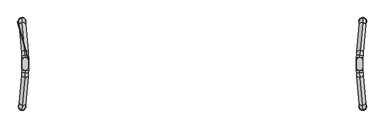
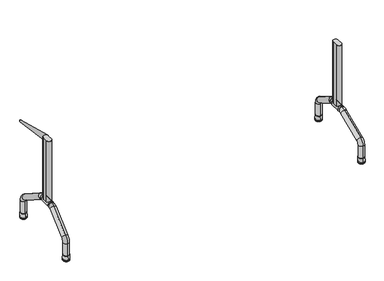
"""IFC4 building model written with IfcOpenShell, lengths in millimetres: furniture geometry, Mesa para refeitório : Mesa para refeitório 220x60cm cód 70472.6."""

from ifc_helpers import new_model, si_unit, point, frame, frame_2d, origin, place, context, project, spatial, polyline, circle_curve, ellipse_curve, trimmed, segment, composite_curve, outline, extrude, source, transform, mapped, element, save
from ifc_brep_helpers import plane_surface, cylinder_surface, revolved_surface, extruded_surface, advanced_brep


def furniture_3dd5c9f9(model_context):
    return source(origin(), model_context, "Body", "SolidModel", [
        advanced_brep(
        [(-1019.4401581, 37.5, 255.0), (-1019.4401581, -37.5, 255.0), (-1019.4401581, -37.5, 295.0), (-1019.4401581, 37.5, 295.0), (-1020.0583573, -51.7441422, 295.0), (-1020.0583573, -51.7441422, 255.0), (-1020.0583573, 51.7441422, 295.0), (-1020.0583573, 51.7441422, 255.0)],
        [
            (0, 1),
            (1, 2, ellipse_curve(frame((-1019.4401581, -37.5, 275.0), z_axis=(0.0, 1.0, 0.0), x_axis=(0.0, 0.0, -1.0)), 20.0, 19.923894)),
            (2, 3),
            (3, 0, ellipse_curve(frame((-1019.4401581, 37.5, 275.0), z_axis=(0.0, -1.0, 0.0), x_axis=(0.0, 0.0, -1.0)), 20.0, 19.923894)),
            (2, 1, ellipse_curve(frame((-1019.4401581, -37.5, 275.0), z_axis=(0.0, 1.0, 0.0), x_axis=(0.0, 0.0, -1.0)), 20.0, 19.923894)),
            (0, 3, ellipse_curve(frame((-1019.4401581, 37.5, 275.0), z_axis=(0.0, -1.0, 0.0), x_axis=(0.0, 0.0, -1.0)), 20.0, 19.923894)),
            (4, 5, ellipse_curve(frame((-1020.0583573, -51.7441422, 275.0), z_axis=(-0.08663729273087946, -0.9962399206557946, 0.0), x_axis=(0.0, 0.0, -1.0)), 20.0, 19.923894)),
            (5, 4, ellipse_curve(frame((-1020.0583573, -51.7441422, 275.0), z_axis=(-0.08663729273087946, -0.9962399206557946, 0.0), x_axis=(0.0, 0.0, -1.0)), 20.0, 19.923894)),
            (4, 2, circle_curve(frame((-1183.8513695, -37.5, 295.0), z_axis=(0.0, 0.0, 1.0), x_axis=(1.0, 0.0, 0.0)), 164.4112114)),
            (1, 5, circle_curve(frame((-1183.8513695, -37.5, 255.0), z_axis=(0.0, 0.0, -1.0), x_axis=(1.0, 0.0, 0.0)), 164.4112114)),
            (6, 7, ellipse_curve(frame((-1020.0583573, 51.7441422, 275.0), z_axis=(-0.08663729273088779, 0.9962399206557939, 0.0), x_axis=(0.0, 0.0, -1.0)), 20.0, 19.923894)),
            (7, 6, ellipse_curve(frame((-1020.0583573, 51.7441422, 275.0), z_axis=(-0.08663729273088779, 0.9962399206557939, 0.0), x_axis=(0.0, 0.0, -1.0)), 20.0, 19.923894)),
            (3, 6, circle_curve(frame((-1183.8513695, 37.5, 295.0), z_axis=(0.0, 0.0, 1.0), x_axis=(0.996239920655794, 0.08663729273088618, 0.0)), 164.4112114)),
            (7, 0, circle_curve(frame((-1183.8513695, 37.5, 255.0), z_axis=(0.0, 0.0, -1.0), x_axis=(0.996239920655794, 0.08663729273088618, 0.0)), 164.4112114)),
        ],
        [
            extruded_surface(trimmed(ellipse_curve(frame((-1019.4401581, 37.5, 275.0), z_axis=(0.0, -1.0, 0.0), x_axis=(0.0, 0.0, -1.0)), 20.0, 19.923894), [point((-1019.4401581, 37.5, 295.0))], [point((-1019.4401581, 37.5, 255.0))], True, "CARTESIAN"), (0.0, -75.0, 0.0), 75.0),
            extruded_surface(trimmed(ellipse_curve(frame((-1019.4401581, 37.5, 275.0), z_axis=(0.0, -1.0, 0.0), x_axis=(0.0, 0.0, -1.0)), 20.0, 19.923894), [point((-1019.4401581, 37.5, 255.0))], [point((-1019.4401581, 37.5, 295.0))], True, "CARTESIAN"), (0.0, -75.0, 0.0), 75.0),
            plane_surface(frame((-1020.0583573, -51.7441422, 0.0), z_axis=(-0.08663729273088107, -0.9962399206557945, 0.0), x_axis=(0.0, 0.0, 1.0))),
            revolved_surface(trimmed(ellipse_curve(frame((-1019.4401581, -37.5, 275.0), z_axis=(0.0, -1.0, 0.0), x_axis=(0.0, 0.0, -1.0)), 20.0, 19.923894), [point((-1019.4401581, -37.5, 295.0))], [point((-1019.4401581, -37.5, 255.0))], True, "CARTESIAN"), (-1183.8513695, -37.5, 0.0), (0.0, 0.0, 1.0)),
            revolved_surface(trimmed(ellipse_curve(frame((-1019.4401581, -37.5, 275.0), z_axis=(0.0, -1.0, 0.0), x_axis=(0.0, 0.0, -1.0)), 20.0, 19.923894), [point((-1019.4401581, -37.5, 255.0))], [point((-1019.4401581, -37.5, 295.0))], True, "CARTESIAN"), (-1183.8513695, -37.5, 0.0), (0.0, 0.0, 1.0)),
            plane_surface(frame((-1020.0583573, 51.7441422, 0.0), z_axis=(-0.08663729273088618, 0.996239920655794, 0.0), x_axis=(0.0, 0.0, 1.0))),
            revolved_surface(trimmed(ellipse_curve(frame((-1020.0583573, 51.7441422, 275.0), z_axis=(0.08663729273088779, -0.9962399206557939, 0.0), x_axis=(0.0, 0.0, -1.0)), 20.0, 19.923894), [point((-1020.0583573, 51.7441422, 295.0))], [point((-1020.0583573, 51.7441422, 255.0))], True, "CARTESIAN"), (-1183.8513695, 37.5, 0.0), (0.0, 0.0, 1.0)),
            revolved_surface(trimmed(ellipse_curve(frame((-1020.0583573, 51.7441422, 275.0), z_axis=(0.08663729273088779, -0.9962399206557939, 0.0), x_axis=(0.0, 0.0, -1.0)), 20.0, 19.923894), [point((-1020.0583573, 51.7441422, 255.0))], [point((-1020.0583573, 51.7441422, 295.0))], True, "CARTESIAN"), (-1183.8513695, 37.5, 0.0), (0.0, 0.0, 1.0)),
        ],
        [
            (0, [[1, 2, 3, 4]]),
            (1, [[-3, 5, -1, 6]]),
            (2, [[7, 8]]),
            (3, [[-7, 9, -2, 10]]),
            (4, [[-8, -10, -5, -9]]),
            (5, [[11, 12]]),
            (6, [[-4, 13, -12, 14]]),
            (7, [[-6, -14, -11, -13]]),
        ],
    ),
        advanced_brep(
        [(-1039.9590188, 279.1314153, 43.1183008), (-1036.4727891, 239.2836274, 43.1183008), (-1039.9590188, 279.1314153, 130.5759348), (-1036.4727891, 239.2836274, 130.5759348), (-1037.4872272, 250.8787073, 181.5558347), (-1022.822711, 83.2625212, 285.9798998), (-1020.9843424, 62.2498719, 251.9932999), (-1035.6488585, 229.866058, 147.5692348), (-1020.0651581, 51.7435473, 295.0), (-1020.0651581, 51.7435473, 255.0)],
        [
            (0, 1, circle_curve(frame((-1038.215904, 259.2075213, 43.1183008), z_axis=(0.0, 0.0, -1.0), x_axis=(0.08715574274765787, -0.9961946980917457, 0.0)), 20.0)),
            (1, 0, circle_curve(frame((-1038.215904, 259.2075213, 43.1183008), z_axis=(0.0, 0.0, -1.0), x_axis=(0.08715574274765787, -0.9961946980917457, 0.0)), 20.0)),
            (0, 2),
            (2, 3, circle_curve(frame((-1038.215904, 259.2075213, 130.5759348), z_axis=(0.0, 0.0, -1.0), x_axis=(0.08715574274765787, -0.9961946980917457, 0.0)), 20.0)),
            (3, 1),
            (3, 2, circle_curve(frame((-1038.215904, 259.2075213, 130.5759348), z_axis=(0.0, 0.0, -1.0), x_axis=(0.08715574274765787, -0.9961946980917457, 0.0)), 20.0)),
            (4, 5),
            (5, 6, circle_curve(frame((-1021.9035267, 72.7561965, 268.9865999), z_axis=(-0.07405318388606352, 0.8464317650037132, -0.5273228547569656), x_axis=(0.04595921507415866, -0.5253162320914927, -0.8496649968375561)), 20.0)),
            (6, 7),
            (7, 4, circle_curve(frame((-1036.5680429, 240.3723827, 164.5625347), z_axis=(0.07405318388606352, -0.8464317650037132, 0.5273228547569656), x_axis=(0.04595921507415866, -0.5253162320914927, -0.8496649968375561)), 20.0)),
            (6, 5, circle_curve(frame((-1021.9035267, 72.7561965, 268.9865999), z_axis=(-0.07405318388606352, 0.8464317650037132, -0.5273228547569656), x_axis=(0.04595921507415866, -0.5253162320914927, -0.8496649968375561)), 20.0)),
            (4, 7, circle_curve(frame((-1036.5680429, 240.3723827, 164.5625347), z_axis=(0.07405318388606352, -0.8464317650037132, 0.5273228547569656), x_axis=(0.04595921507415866, -0.5253162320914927, -0.8496649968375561)), 20.0)),
            (7, 3, circle_curve(frame((-1034.7296742, 219.3597334, 130.5759348), z_axis=(-0.9961946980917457, -0.08715574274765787, 0.0), x_axis=(-0.08715574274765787, 0.9961946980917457, 0.0)), 20.0)),
            (2, 4, circle_curve(frame((-1034.7296742, 219.3597334, 130.5759348), z_axis=(0.9961946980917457, 0.08715574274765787, 0.0), x_axis=(-0.08715574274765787, 0.9961946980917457, 0.0)), 60.0)),
            (8, 9, circle_curve(frame((-1020.0651581, 51.7435473, 275.0), z_axis=(0.08715574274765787, -0.9961946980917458, 0.0), x_axis=(0.0, 0.0, -1.0)), 20.0)),
            (9, 8, circle_curve(frame((-1020.0651581, 51.7435473, 275.0), z_axis=(0.08715574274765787, -0.9961946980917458, 0.0), x_axis=(0.0, 0.0, -1.0)), 20.0)),
            (9, 6, circle_curve(frame((-1020.0651581, 51.7435473, 235.0), z_axis=(-0.9961946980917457, -0.08715574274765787, 0.0), x_axis=(-0.045959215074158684, 0.5253162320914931, 0.8496649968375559)), 20.0)),
            (5, 8, circle_curve(frame((-1020.0651581, 51.7435473, 235.0), z_axis=(0.9961946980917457, 0.08715574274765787, 0.0), x_axis=(-0.045959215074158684, 0.5253162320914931, 0.8496649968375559)), 60.0)),
        ],
        [
            plane_surface(frame((-350.8415623, 319.3449838, 43.1183008), z_axis=(0.0, 0.0, -1.0000000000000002), x_axis=(-0.9961946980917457, -0.08715574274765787, 0.0))),
            cylinder_surface(frame((-1038.215904, 259.2075213, 43.1183008), z_axis=(0.0, 0.0, -1.0000000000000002), x_axis=(0.08715574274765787, -0.9961946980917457, 0.0)), 20.0),
            cylinder_surface(frame((-1036.5680429, 240.3723827, 164.5625347), z_axis=(-0.07405318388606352, 0.8464317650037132, -0.5273228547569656), x_axis=(0.04595921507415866, -0.5253162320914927, -0.8496649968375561)), 20.0),
            revolved_surface(trimmed(ellipse_curve(frame((-1038.215904, 259.2075213, 130.5759348), z_axis=(0.0, 0.0, 1.0000000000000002), x_axis=(0.08715574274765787, -0.9961946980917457, 0.0)), 20.0, 20.0), [point((-1036.4727891, 239.2836274, 130.5759348))], [point((-1039.9590188, 279.1314153, 130.5759348))], True, "CARTESIAN"), (-347.3553326, 279.4971959, 130.5759348), (-0.9961946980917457, -0.08715574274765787, 0.0)),
            revolved_surface(trimmed(ellipse_curve(frame((-1038.215904, 259.2075213, 130.5759348), z_axis=(0.0, 0.0, 1.0000000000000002), x_axis=(0.08715574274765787, -0.9961946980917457, 0.0)), 20.0, 20.0), [point((-1039.9590188, 279.1314153, 130.5759348))], [point((-1036.4727891, 239.2836274, 130.5759348))], True, "CARTESIAN"), (-347.3553326, 279.4971959, 130.5759348), (-0.9961946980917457, -0.08715574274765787, 0.0)),
            plane_surface(frame((-332.6908165, 111.8810098, 275.0), z_axis=(0.08715574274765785, -0.9961946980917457, 0.0), x_axis=(-0.9961946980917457, -0.08715574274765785, 0.0))),
            revolved_surface(trimmed(ellipse_curve(frame((-1021.9035267, 72.7561965, 268.9865999), z_axis=(0.07405318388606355, -0.8464317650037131, 0.527322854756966), x_axis=(0.04595921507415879, -0.5253162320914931, -0.8496649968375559)), 20.0, 20.0), [point((-1020.9843424, 62.2498719, 251.9932999))], [point((-1022.822711, 83.2625212, 285.9798998))], True, "CARTESIAN"), (-332.6908165, 111.8810098, 235.0), (-0.9961946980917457, -0.08715574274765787, 0.0)),
            revolved_surface(trimmed(ellipse_curve(frame((-1021.9035267, 72.7561965, 268.9865999), z_axis=(0.07405318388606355, -0.8464317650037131, 0.527322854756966), x_axis=(0.04595921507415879, -0.5253162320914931, -0.8496649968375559)), 20.0, 20.0), [point((-1022.822711, 83.2625212, 285.9798998))], [point((-1020.9843424, 62.2498719, 251.9932999))], True, "CARTESIAN"), (-332.6908165, 111.8810098, 235.0), (-0.9961946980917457, -0.08715574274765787, 0.0)),
        ],
        [
            (0, [[1, 2]]),
            (1, [[3, 4, 5, -1]]),
            (1, [[-5, 6, -3, -2]]),
            (2, [[7, 8, 9, 10]]),
            (2, [[-9, 11, -7, 12]]),
            (3, [[-10, 13, -4, 14]]),
            (4, [[-12, -14, -6, -13]]),
            (5, [[15, 16]]),
            (6, [[-16, 17, -8, 18]]),
            (7, [[-15, -18, -11, -17]]),
        ],
    ),
        advanced_brep(
        [(-1036.4727891, -239.2836274, 43.1183008), (-1039.9590188, -279.1314153, 43.1183008), (-1039.9590188, -279.1314153, 130.5759348), (-1036.4727891, -239.2836274, 130.5759348), (-1037.4872272, -250.8787073, 181.5558347), (-1022.822711, -83.2625212, 285.9798998), (-1020.9843424, -62.2498719, 251.9932999), (-1035.6488585, -229.866058, 147.5692348), (-1020.0651581, -51.7435473, 255.0), (-1020.0651581, -51.7435473, 295.0)],
        [
            (0, 1, circle_curve(frame((-1038.215904, -259.2075213, 43.1183008), z_axis=(0.0, 0.0, -1.0), x_axis=(-0.08715574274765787, -0.9961946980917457, 0.0)), 20.0)),
            (1, 0, circle_curve(frame((-1038.215904, -259.2075213, 43.1183008), z_axis=(0.0, 0.0, -1.0), x_axis=(-0.08715574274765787, -0.9961946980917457, 0.0)), 20.0)),
            (1, 2),
            (2, 3, circle_curve(frame((-1038.215904, -259.2075213, 130.5759348), z_axis=(0.0, 0.0, -1.0), x_axis=(-0.08715574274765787, -0.9961946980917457, 0.0)), 20.0)),
            (3, 0),
            (3, 2, circle_curve(frame((-1038.215904, -259.2075213, 130.5759348), z_axis=(0.0, 0.0, -1.0), x_axis=(-0.08715574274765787, -0.9961946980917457, 0.0)), 20.0)),
            (4, 5),
            (5, 6, circle_curve(frame((-1021.9035267, -72.7561965, 268.9865999), z_axis=(-0.07405318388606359, -0.8464317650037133, -0.5273228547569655), x_axis=(-0.04595921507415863, -0.5253162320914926, 0.8496649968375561)), 20.0)),
            (6, 7),
            (7, 4, circle_curve(frame((-1036.5680429, -240.3723827, 164.5625347), z_axis=(0.07405318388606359, 0.8464317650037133, 0.5273228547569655), x_axis=(-0.04595921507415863, -0.5253162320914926, 0.8496649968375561)), 20.0)),
            (6, 5, circle_curve(frame((-1021.9035267, -72.7561965, 268.9865999), z_axis=(-0.07405318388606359, -0.8464317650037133, -0.5273228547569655), x_axis=(-0.04595921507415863, -0.5253162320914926, 0.8496649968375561)), 20.0)),
            (4, 7, circle_curve(frame((-1036.5680429, -240.3723827, 164.5625347), z_axis=(0.07405318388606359, 0.8464317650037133, 0.5273228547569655), x_axis=(-0.04595921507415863, -0.5253162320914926, 0.8496649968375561)), 20.0)),
            (7, 3, circle_curve(frame((-1034.7296742, -219.3597334, 130.5759348), z_axis=(0.9961946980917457, -0.08715574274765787, 0.0), x_axis=(-0.08715574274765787, -0.9961946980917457, 0.0)), 20.0)),
            (2, 4, circle_curve(frame((-1034.7296742, -219.3597334, 130.5759348), z_axis=(-0.9961946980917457, 0.08715574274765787, 0.0), x_axis=(-0.08715574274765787, -0.9961946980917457, 0.0)), 60.0)),
            (8, 9, circle_curve(frame((-1020.0651581, -51.7435473, 275.0), z_axis=(0.08715574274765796, 0.9961946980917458, 0.0), x_axis=(0.0, 0.0, 1.0)), 20.0)),
            (9, 8, circle_curve(frame((-1020.0651581, -51.7435473, 275.0), z_axis=(0.08715574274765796, 0.9961946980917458, 0.0), x_axis=(0.0, 0.0, 1.0)), 20.0)),
            (8, 6, circle_curve(frame((-1020.0651581, -51.7435473, 235.0), z_axis=(0.9961946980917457, -0.08715574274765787, 0.0), x_axis=(-0.045959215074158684, -0.5253162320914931, 0.8496649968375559)), 20.0)),
            (5, 9, circle_curve(frame((-1020.0651581, -51.7435473, 235.0), z_axis=(-0.9961946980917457, 0.08715574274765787, 0.0), x_axis=(-0.045959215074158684, -0.5253162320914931, 0.8496649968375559)), 60.0)),
        ],
        [
            plane_surface(frame((-350.8415623, -319.3449838, 43.1183008), z_axis=(0.0, 0.0, -1.0000000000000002), x_axis=(-0.9961946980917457, 0.08715574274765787, 0.0))),
            cylinder_surface(frame((-1038.215904, -259.2075213, 43.1183008), z_axis=(0.0, 0.0, -1.0000000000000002), x_axis=(-0.08715574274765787, -0.9961946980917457, 0.0)), 20.0),
            cylinder_surface(frame((-1036.5680429, -240.3723827, 164.5625347), z_axis=(-0.07405318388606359, -0.8464317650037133, -0.5273228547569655), x_axis=(-0.04595921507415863, -0.5253162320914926, 0.8496649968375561)), 20.0),
            revolved_surface(trimmed(ellipse_curve(frame((-1038.215904, -259.2075213, 130.5759348), z_axis=(0.0, 0.0, 1.0000000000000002), x_axis=(-0.08715574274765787, -0.9961946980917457, 0.0)), 20.0, 20.0), [point((-1036.4727891, -239.2836274, 130.5759348))], [point((-1039.9590188, -279.1314153, 130.5759348))], True, "CARTESIAN"), (-347.3553326, -279.4971959, 130.5759348), (0.9961946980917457, -0.08715574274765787, 0.0)),
            revolved_surface(trimmed(ellipse_curve(frame((-1038.215904, -259.2075213, 130.5759348), z_axis=(0.0, 0.0, 1.0000000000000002), x_axis=(-0.08715574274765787, -0.9961946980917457, 0.0)), 20.0, 20.0), [point((-1039.9590188, -279.1314153, 130.5759348))], [point((-1036.4727891, -239.2836274, 130.5759348))], True, "CARTESIAN"), (-347.3553326, -279.4971959, 130.5759348), (0.9961946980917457, -0.08715574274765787, 0.0)),
            plane_surface(frame((-332.6908165, -111.8810098, 275.0), z_axis=(0.0871557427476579, 0.9961946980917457, 0.0), x_axis=(-0.9961946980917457, 0.0871557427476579, 0.0))),
            revolved_surface(trimmed(ellipse_curve(frame((-1021.9035267, -72.7561965, 268.9865999), z_axis=(0.07405318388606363, 0.8464317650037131, 0.527322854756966), x_axis=(-0.04595921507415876, -0.5253162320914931, 0.8496649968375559)), 20.0, 20.0), [point((-1020.9843424, -62.2498719, 251.9932999))], [point((-1022.822711, -83.2625212, 285.9798998))], True, "CARTESIAN"), (-332.6908165, -111.8810098, 235.0), (0.9961946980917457, -0.08715574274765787, 0.0)),
            revolved_surface(trimmed(ellipse_curve(frame((-1021.9035267, -72.7561965, 268.9865999), z_axis=(0.07405318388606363, 0.8464317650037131, 0.527322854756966), x_axis=(-0.04595921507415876, -0.5253162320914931, 0.8496649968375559)), 20.0, 20.0), [point((-1022.822711, -83.2625212, 285.9798998))], [point((-1020.9843424, -62.2498719, 251.9932999))], True, "CARTESIAN"), (-332.6908165, -111.8810098, 235.0), (0.9961946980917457, -0.08715574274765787, 0.0)),
        ],
        [
            (0, [[1, 2]]),
            (1, [[3, 4, 5, -2]]),
            (1, [[-5, 6, -3, -1]]),
            (2, [[7, 8, 9, 10]]),
            (2, [[-9, 11, -7, 12]]),
            (3, [[-10, 13, -4, 14]]),
            (4, [[-12, -14, -6, -13]]),
            (5, [[15, 16]]),
            (6, [[-15, 17, -8, 18]]),
            (7, [[-16, -18, -11, -17]]),
        ],
    ),
        extrude(outline(composite_curve([segment(polyline([(-1037.5814475, -19.3376613), (-1037.5814475, 19.4032698)]), True, "CONTINUOUS"), segment(trimmed(circle_curve(frame_2d((-1019.5814475, 19.4032698)), 18.0), [point((-1037.5814475, 19.4032698))], [point((-1001.5814475, 19.4032698))], False, "CARTESIAN"), True, "CONTINUOUS"), segment(polyline([(-1001.5814475, 19.4032698), (-1001.5814475, -19.3376613)]), True, "CONTINUOUS"), segment(trimmed(circle_curve(frame_2d((-1019.5814475, -19.3376613)), 18.0), [point((-1001.5814475, -19.3376613))], [point((-1037.5814475, -19.3376613))], False, "CARTESIAN"), True, "CONTINUOUS")], self_intersect=False)), frame((0.0, 0.0, 275.0), z_axis=(0.0, 0.0, 1.0), x_axis=(1.0, 0.0, 0.0)), (0.0, 0.0, 1.0), 467.0),
        advanced_brep(
        [(1019.4401581, 37.5, 255.0), (1019.4401581, 37.5, 295.0), (1019.4401581, -37.5, 295.0), (1019.4401581, -37.5, 255.0), (1020.0583573, -51.7441422, 295.0), (1020.0583573, -51.7441422, 255.0), (1020.0583573, 51.7441422, 295.0), (1020.0583573, 51.7441422, 255.0)],
        [
            (0, 1, ellipse_curve(frame((1019.4401581, 37.5, 275.0), z_axis=(0.0, -1.0, 0.0), x_axis=(0.0, 0.0, -1.0)), 20.0, 19.923894)),
            (1, 2),
            (2, 3, ellipse_curve(frame((1019.4401581, -37.5, 275.0), z_axis=(0.0, 1.0, 0.0), x_axis=(0.0, 0.0, -1.0)), 20.0, 19.923894)),
            (3, 0),
            (1, 0, ellipse_curve(frame((1019.4401581, 37.5, 275.0), z_axis=(0.0, -1.0, 0.0), x_axis=(0.0, 0.0, -1.0)), 20.0, 19.923894)),
            (3, 2, ellipse_curve(frame((1019.4401581, -37.5, 275.0), z_axis=(0.0, 1.0, 0.0), x_axis=(0.0, 0.0, -1.0)), 20.0, 19.923894)),
            (4, 5, ellipse_curve(frame((1020.0583573, -51.7441422, 275.0), z_axis=(0.08663729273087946, -0.9962399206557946, 0.0), x_axis=(0.0, 0.0, -1.0)), 20.0, 19.923894)),
            (5, 4, ellipse_curve(frame((1020.0583573, -51.7441422, 275.0), z_axis=(0.08663729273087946, -0.9962399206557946, 0.0), x_axis=(0.0, 0.0, -1.0)), 20.0, 19.923894)),
            (5, 3, circle_curve(frame((1183.8513695, -37.5, 255.0), z_axis=(0.0, 0.0, -1.0), x_axis=(-1.0, 0.0, 0.0)), 164.4112114)),
            (2, 4, circle_curve(frame((1183.8513695, -37.5, 295.0), z_axis=(0.0, 0.0, 1.0), x_axis=(-1.0, 0.0, 0.0)), 164.4112114)),
            (6, 7, ellipse_curve(frame((1020.0583573, 51.7441422, 275.0), z_axis=(0.08663729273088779, 0.9962399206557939, 0.0), x_axis=(0.0, 0.0, -1.0)), 20.0, 19.923894)),
            (7, 6, ellipse_curve(frame((1020.0583573, 51.7441422, 275.0), z_axis=(0.08663729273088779, 0.9962399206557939, 0.0), x_axis=(0.0, 0.0, -1.0)), 20.0, 19.923894)),
            (0, 7, circle_curve(frame((1183.8513695, 37.5, 255.0), z_axis=(0.0, 0.0, -1.0), x_axis=(-0.996239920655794, 0.08663729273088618, 0.0)), 164.4112114)),
            (6, 1, circle_curve(frame((1183.8513695, 37.5, 295.0), z_axis=(0.0, 0.0, 1.0), x_axis=(-0.996239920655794, 0.08663729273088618, 0.0)), 164.4112114)),
        ],
        [
            extruded_surface(trimmed(ellipse_curve(frame((1019.4401581, -37.5, 275.0), z_axis=(0.0, 1.0, 0.0), x_axis=(0.0, 0.0, -1.0)), 20.0, 19.923894), [point((1019.4401581, -37.5, 295.0))], [point((1019.4401581, -37.5, 255.0))], True, "CARTESIAN"), (0.0, 75.0, 0.0), 75.0),
            extruded_surface(trimmed(ellipse_curve(frame((1019.4401581, -37.5, 275.0), z_axis=(0.0, 1.0, 0.0), x_axis=(0.0, 0.0, -1.0)), 20.0, 19.923894), [point((1019.4401581, -37.5, 255.0))], [point((1019.4401581, -37.5, 295.0))], True, "CARTESIAN"), (0.0, 75.0, 0.0), 75.0),
            plane_surface(frame((1020.0583573, -51.7441422, 0.0), z_axis=(0.08663729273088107, -0.9962399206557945, 0.0), x_axis=(0.0, 0.0, 1.0))),
            revolved_surface(trimmed(ellipse_curve(frame((1019.4401581, -37.5, 275.0), z_axis=(0.0, 1.0, 0.0), x_axis=(0.0, 0.0, -1.0)), 20.0, 19.923894), [point((1019.4401581, -37.5, 295.0))], [point((1019.4401581, -37.5, 255.0))], True, "CARTESIAN"), (1183.8513695, -37.5, 0.0), (0.0, 0.0, 1.0)),
            revolved_surface(trimmed(ellipse_curve(frame((1019.4401581, -37.5, 275.0), z_axis=(0.0, 1.0, 0.0), x_axis=(0.0, 0.0, -1.0)), 20.0, 19.923894), [point((1019.4401581, -37.5, 255.0))], [point((1019.4401581, -37.5, 295.0))], True, "CARTESIAN"), (1183.8513695, -37.5, 0.0), (0.0, 0.0, 1.0)),
            plane_surface(frame((1020.0583573, 51.7441422, 0.0), z_axis=(0.08663729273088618, 0.996239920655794, 0.0), x_axis=(0.0, 0.0, 1.0))),
            revolved_surface(trimmed(ellipse_curve(frame((1020.0583573, 51.7441422, 275.0), z_axis=(0.08663729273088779, 0.9962399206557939, 0.0), x_axis=(0.0, 0.0, -1.0)), 20.0, 19.923894), [point((1020.0583573, 51.7441422, 295.0))], [point((1020.0583573, 51.7441422, 255.0))], True, "CARTESIAN"), (1183.8513695, 37.5, 0.0), (0.0, 0.0, 1.0)),
            revolved_surface(trimmed(ellipse_curve(frame((1020.0583573, 51.7441422, 275.0), z_axis=(0.08663729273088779, 0.9962399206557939, 0.0), x_axis=(0.0, 0.0, -1.0)), 20.0, 19.923894), [point((1020.0583573, 51.7441422, 255.0))], [point((1020.0583573, 51.7441422, 295.0))], True, "CARTESIAN"), (1183.8513695, 37.5, 0.0), (0.0, 0.0, 1.0)),
        ],
        [
            (0, [[1, 2, 3, 4]]),
            (1, [[5, -4, 6, -2]]),
            (2, [[7, 8]]),
            (3, [[9, -3, 10, -8]]),
            (4, [[-10, -6, -9, -7]]),
            (5, [[11, 12]]),
            (6, [[13, -11, 14, -1]]),
            (7, [[-14, -12, -13, -5]]),
        ],
    ),
        advanced_brep(
        [(1039.9590188, 279.1314153, 43.1183008), (1036.4727891, 239.2836274, 43.1183008), (1036.4727891, 239.2836274, 130.5759348), (1039.9590188, 279.1314153, 130.5759348), (1037.4872272, 250.8787073, 181.5558347), (1035.6488585, 229.866058, 147.5692348), (1020.9843424, 62.2498719, 251.9932999), (1022.822711, 83.2625212, 285.9798998), (1020.0651581, 51.7435473, 295.0), (1020.0651581, 51.7435473, 255.0)],
        [
            (0, 1, circle_curve(frame((1038.215904, 259.2075213, 43.1183008), z_axis=(0.0, 0.0, -1.0), x_axis=(-0.08715574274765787, -0.9961946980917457, 0.0)), 20.0)),
            (1, 0, circle_curve(frame((1038.215904, 259.2075213, 43.1183008), z_axis=(0.0, 0.0, -1.0), x_axis=(-0.08715574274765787, -0.9961946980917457, 0.0)), 20.0)),
            (1, 2),
            (2, 3, circle_curve(frame((1038.215904, 259.2075213, 130.5759348), z_axis=(0.0, 0.0, -1.0), x_axis=(-0.08715574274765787, -0.9961946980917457, 0.0)), 20.0)),
            (3, 0),
            (3, 2, circle_curve(frame((1038.215904, 259.2075213, 130.5759348), z_axis=(0.0, 0.0, -1.0), x_axis=(-0.08715574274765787, -0.9961946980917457, 0.0)), 20.0)),
            (4, 5, circle_curve(frame((1036.5680429, 240.3723827, 164.5625347), z_axis=(-0.07405318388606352, -0.8464317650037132, 0.5273228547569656), x_axis=(-0.04595921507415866, -0.5253162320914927, -0.8496649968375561)), 20.0)),
            (5, 6),
            (6, 7, circle_curve(frame((1021.9035267, 72.7561965, 268.9865999), z_axis=(0.07405318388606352, 0.8464317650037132, -0.5273228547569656), x_axis=(-0.04595921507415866, -0.5253162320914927, -0.8496649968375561)), 20.0)),
            (7, 4),
            (5, 4, circle_curve(frame((1036.5680429, 240.3723827, 164.5625347), z_axis=(-0.07405318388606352, -0.8464317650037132, 0.5273228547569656), x_axis=(-0.04595921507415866, -0.5253162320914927, -0.8496649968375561)), 20.0)),
            (7, 6, circle_curve(frame((1021.9035267, 72.7561965, 268.9865999), z_axis=(0.07405318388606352, 0.8464317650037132, -0.5273228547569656), x_axis=(-0.04595921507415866, -0.5253162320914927, -0.8496649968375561)), 20.0)),
            (4, 3, circle_curve(frame((1034.7296742, 219.3597334, 130.5759348), z_axis=(-0.9961946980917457, 0.08715574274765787, 0.0), x_axis=(0.08715574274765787, 0.9961946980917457, 0.0)), 60.0)),
            (2, 5, circle_curve(frame((1034.7296742, 219.3597334, 130.5759348), z_axis=(0.9961946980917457, -0.08715574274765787, 0.0), x_axis=(0.08715574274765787, 0.9961946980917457, 0.0)), 20.0)),
            (8, 9, circle_curve(frame((1020.0651581, 51.7435473, 275.0), z_axis=(-0.08715574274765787, -0.9961946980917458, 0.0), x_axis=(0.0, 0.0, -1.0)), 20.0)),
            (9, 8, circle_curve(frame((1020.0651581, 51.7435473, 275.0), z_axis=(-0.08715574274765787, -0.9961946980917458, 0.0), x_axis=(0.0, 0.0, -1.0)), 20.0)),
            (8, 7, circle_curve(frame((1020.0651581, 51.7435473, 235.0), z_axis=(-0.9961946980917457, 0.08715574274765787, 0.0), x_axis=(0.045959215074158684, 0.5253162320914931, 0.8496649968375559)), 60.0)),
            (6, 9, circle_curve(frame((1020.0651581, 51.7435473, 235.0), z_axis=(0.9961946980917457, -0.08715574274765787, 0.0), x_axis=(0.045959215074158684, 0.5253162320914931, 0.8496649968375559)), 20.0)),
        ],
        [
            plane_surface(frame((350.8415623, 319.3449838, 43.1183008), z_axis=(0.0, 0.0, -1.0000000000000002), x_axis=(0.9961946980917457, -0.08715574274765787, 0.0))),
            cylinder_surface(frame((1038.215904, 259.2075213, 43.1183008), z_axis=(0.0, 0.0, -1.0000000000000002), x_axis=(-0.08715574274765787, -0.9961946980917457, 0.0)), 20.0),
            cylinder_surface(frame((1036.5680429, 240.3723827, 164.5625347), z_axis=(0.07405318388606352, 0.8464317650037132, -0.5273228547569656), x_axis=(-0.04595921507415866, -0.5253162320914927, -0.8496649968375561)), 20.0),
            revolved_surface(trimmed(ellipse_curve(frame((1038.215904, 259.2075213, 130.5759348), z_axis=(0.0, 0.0, -1.0000000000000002), x_axis=(-0.08715574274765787, -0.9961946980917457, 0.0)), 20.0, 20.0), [point((1036.4727891, 239.2836274, 130.5759348))], [point((1039.9590188, 279.1314153, 130.5759348))], True, "CARTESIAN"), (347.3553326, 279.4971959, 130.5759348), (0.9961946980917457, -0.08715574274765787, 0.0)),
            revolved_surface(trimmed(ellipse_curve(frame((1038.215904, 259.2075213, 130.5759348), z_axis=(0.0, 0.0, -1.0000000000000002), x_axis=(-0.08715574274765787, -0.9961946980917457, 0.0)), 20.0, 20.0), [point((1039.9590188, 279.1314153, 130.5759348))], [point((1036.4727891, 239.2836274, 130.5759348))], True, "CARTESIAN"), (347.3553326, 279.4971959, 130.5759348), (0.9961946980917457, -0.08715574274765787, 0.0)),
            plane_surface(frame((332.6908165, 111.8810098, 275.0), z_axis=(-0.08715574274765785, -0.9961946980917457, 0.0), x_axis=(0.9961946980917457, -0.08715574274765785, 0.0))),
            revolved_surface(trimmed(ellipse_curve(frame((1021.9035267, 72.7561965, 268.9865999), z_axis=(0.07405318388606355, 0.8464317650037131, -0.527322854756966), x_axis=(-0.04595921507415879, -0.5253162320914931, -0.8496649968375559)), 20.0, 20.0), [point((1020.9843424, 62.2498719, 251.9932999))], [point((1022.822711, 83.2625212, 285.9798998))], True, "CARTESIAN"), (332.6908165, 111.8810098, 235.0), (0.9961946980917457, -0.08715574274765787, 0.0)),
            revolved_surface(trimmed(ellipse_curve(frame((1021.9035267, 72.7561965, 268.9865999), z_axis=(0.07405318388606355, 0.8464317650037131, -0.527322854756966), x_axis=(-0.04595921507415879, -0.5253162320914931, -0.8496649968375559)), 20.0, 20.0), [point((1022.822711, 83.2625212, 285.9798998))], [point((1020.9843424, 62.2498719, 251.9932999))], True, "CARTESIAN"), (332.6908165, 111.8810098, 235.0), (0.9961946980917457, -0.08715574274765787, 0.0)),
        ],
        [
            (0, [[1, 2]]),
            (1, [[-2, 3, 4, 5]]),
            (1, [[-1, -5, 6, -3]]),
            (2, [[7, 8, 9, 10]]),
            (2, [[11, -10, 12, -8]]),
            (3, [[13, -4, 14, -7]]),
            (4, [[-14, -6, -13, -11]]),
            (5, [[15, 16]]),
            (6, [[17, -9, 18, -15]]),
            (7, [[-18, -12, -17, -16]]),
        ],
    ),
        advanced_brep(
        [(1036.4727891, -239.2836274, 43.1183008), (1039.9590188, -279.1314153, 43.1183008), (1036.4727891, -239.2836274, 130.5759348), (1039.9590188, -279.1314153, 130.5759348), (1037.4872272, -250.8787073, 181.5558347), (1035.6488585, -229.866058, 147.5692348), (1020.9843424, -62.2498719, 251.9932999), (1022.822711, -83.2625212, 285.9798998), (1020.0651581, -51.7435473, 255.0), (1020.0651581, -51.7435473, 295.0)],
        [
            (0, 1, circle_curve(frame((1038.215904, -259.2075213, 43.1183008), z_axis=(0.0, 0.0, -1.0), x_axis=(0.08715574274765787, -0.9961946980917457, 0.0)), 20.0)),
            (1, 0, circle_curve(frame((1038.215904, -259.2075213, 43.1183008), z_axis=(0.0, 0.0, -1.0), x_axis=(0.08715574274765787, -0.9961946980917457, 0.0)), 20.0)),
            (0, 2),
            (2, 3, circle_curve(frame((1038.215904, -259.2075213, 130.5759348), z_axis=(0.0, 0.0, -1.0), x_axis=(0.08715574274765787, -0.9961946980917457, 0.0)), 20.0)),
            (3, 1),
            (3, 2, circle_curve(frame((1038.215904, -259.2075213, 130.5759348), z_axis=(0.0, 0.0, -1.0), x_axis=(0.08715574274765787, -0.9961946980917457, 0.0)), 20.0)),
            (4, 5, circle_curve(frame((1036.5680429, -240.3723827, 164.5625347), z_axis=(-0.07405318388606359, 0.8464317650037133, 0.5273228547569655), x_axis=(0.04595921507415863, -0.5253162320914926, 0.8496649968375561)), 20.0)),
            (5, 6),
            (6, 7, circle_curve(frame((1021.9035267, -72.7561965, 268.9865999), z_axis=(0.07405318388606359, -0.8464317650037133, -0.5273228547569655), x_axis=(0.04595921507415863, -0.5253162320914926, 0.8496649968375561)), 20.0)),
            (7, 4),
            (5, 4, circle_curve(frame((1036.5680429, -240.3723827, 164.5625347), z_axis=(-0.07405318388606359, 0.8464317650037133, 0.5273228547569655), x_axis=(0.04595921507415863, -0.5253162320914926, 0.8496649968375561)), 20.0)),
            (7, 6, circle_curve(frame((1021.9035267, -72.7561965, 268.9865999), z_axis=(0.07405318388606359, -0.8464317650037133, -0.5273228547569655), x_axis=(0.04595921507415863, -0.5253162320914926, 0.8496649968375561)), 20.0)),
            (4, 3, circle_curve(frame((1034.7296742, -219.3597334, 130.5759348), z_axis=(0.9961946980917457, 0.08715574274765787, 0.0), x_axis=(0.08715574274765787, -0.9961946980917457, 0.0)), 60.0)),
            (2, 5, circle_curve(frame((1034.7296742, -219.3597334, 130.5759348), z_axis=(-0.9961946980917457, -0.08715574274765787, 0.0), x_axis=(0.08715574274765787, -0.9961946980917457, 0.0)), 20.0)),
            (8, 9, circle_curve(frame((1020.0651581, -51.7435473, 275.0), z_axis=(-0.08715574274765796, 0.9961946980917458, 0.0), x_axis=(0.0, 0.0, 1.0)), 20.0)),
            (9, 8, circle_curve(frame((1020.0651581, -51.7435473, 275.0), z_axis=(-0.08715574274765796, 0.9961946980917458, 0.0), x_axis=(0.0, 0.0, 1.0)), 20.0)),
            (9, 7, circle_curve(frame((1020.0651581, -51.7435473, 235.0), z_axis=(0.9961946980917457, 0.08715574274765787, 0.0), x_axis=(0.045959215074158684, -0.5253162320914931, 0.8496649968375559)), 60.0)),
            (6, 8, circle_curve(frame((1020.0651581, -51.7435473, 235.0), z_axis=(-0.9961946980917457, -0.08715574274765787, 0.0), x_axis=(0.045959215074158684, -0.5253162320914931, 0.8496649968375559)), 20.0)),
        ],
        [
            plane_surface(frame((350.8415623, -319.3449838, 43.1183008), z_axis=(0.0, 0.0, -1.0000000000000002), x_axis=(0.9961946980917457, 0.08715574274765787, 0.0))),
            cylinder_surface(frame((1038.215904, -259.2075213, 43.1183008), z_axis=(0.0, 0.0, -1.0000000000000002), x_axis=(0.08715574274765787, -0.9961946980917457, 0.0)), 20.0),
            cylinder_surface(frame((1036.5680429, -240.3723827, 164.5625347), z_axis=(0.07405318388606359, -0.8464317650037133, -0.5273228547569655), x_axis=(0.04595921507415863, -0.5253162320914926, 0.8496649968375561)), 20.0),
            revolved_surface(trimmed(ellipse_curve(frame((1038.215904, -259.2075213, 130.5759348), z_axis=(0.0, 0.0, -1.0000000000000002), x_axis=(0.08715574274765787, -0.9961946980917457, 0.0)), 20.0, 20.0), [point((1036.4727891, -239.2836274, 130.5759348))], [point((1039.9590188, -279.1314153, 130.5759348))], True, "CARTESIAN"), (347.3553326, -279.4971959, 130.5759348), (-0.9961946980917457, -0.08715574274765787, 0.0)),
            revolved_surface(trimmed(ellipse_curve(frame((1038.215904, -259.2075213, 130.5759348), z_axis=(0.0, 0.0, -1.0000000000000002), x_axis=(0.08715574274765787, -0.9961946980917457, 0.0)), 20.0, 20.0), [point((1039.9590188, -279.1314153, 130.5759348))], [point((1036.4727891, -239.2836274, 130.5759348))], True, "CARTESIAN"), (347.3553326, -279.4971959, 130.5759348), (-0.9961946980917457, -0.08715574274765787, 0.0)),
            plane_surface(frame((332.6908165, -111.8810098, 275.0), z_axis=(-0.0871557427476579, 0.9961946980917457, 0.0), x_axis=(0.9961946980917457, 0.0871557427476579, 0.0))),
            revolved_surface(trimmed(ellipse_curve(frame((1021.9035267, -72.7561965, 268.9865999), z_axis=(0.07405318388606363, -0.8464317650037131, -0.527322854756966), x_axis=(0.04595921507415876, -0.5253162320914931, 0.8496649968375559)), 20.0, 20.0), [point((1020.9843424, -62.2498719, 251.9932999))], [point((1022.822711, -83.2625212, 285.9798998))], True, "CARTESIAN"), (332.6908165, -111.8810098, 235.0), (-0.9961946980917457, -0.08715574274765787, 0.0)),
            revolved_surface(trimmed(ellipse_curve(frame((1021.9035267, -72.7561965, 268.9865999), z_axis=(0.07405318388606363, -0.8464317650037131, -0.527322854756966), x_axis=(0.04595921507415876, -0.5253162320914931, 0.8496649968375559)), 20.0, 20.0), [point((1022.822711, -83.2625212, 285.9798998))], [point((1020.9843424, -62.2498719, 251.9932999))], True, "CARTESIAN"), (332.6908165, -111.8810098, 235.0), (-0.9961946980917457, -0.08715574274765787, 0.0)),
        ],
        [
            (0, [[1, 2]]),
            (1, [[-1, 3, 4, 5]]),
            (1, [[-2, -5, 6, -3]]),
            (2, [[7, 8, 9, 10]]),
            (2, [[11, -10, 12, -8]]),
            (3, [[13, -4, 14, -7]]),
            (4, [[-14, -6, -13, -11]]),
            (5, [[15, 16]]),
            (6, [[17, -9, 18, -16]]),
            (7, [[-18, -12, -17, -15]]),
        ],
    ),
        extrude(outline(composite_curve([segment(trimmed(circle_curve(frame_2d((1019.5814475, -19.3376613)), 18.0), [point((1037.5814475, -19.3376613))], [point((1001.5814475, -19.3376613))], False, "CARTESIAN"), True, "CONTINUOUS"), segment(polyline([(1001.5814475, -19.3376613), (1001.5814475, 19.4032698)]), True, "CONTINUOUS"), segment(trimmed(circle_curve(frame_2d((1019.5814475, 19.4032698)), 18.0), [point((1001.5814475, 19.4032698))], [point((1037.5814475, 19.4032698))], False, "CARTESIAN"), True, "CONTINUOUS"), segment(polyline([(1037.5814475, 19.4032698), (1037.5814475, -19.3376613)]), True, "CONTINUOUS")], self_intersect=False)), frame((0.0, 0.0, 275.0), z_axis=(0.0, 0.0, 1.0), x_axis=(1.0, 0.0, 0.0)), (0.0, 0.0, 1.0), 467.0),
        advanced_brep(
        [(-1038.215904, 280.5839249, 42.9792915), (-1038.215904, 281.212521, 42.3931162), (-1038.215904, 238.787479, 42.3931162), (-1038.215904, 239.4160751, 42.9792915), (-1038.215904, 283.125, 15.0433923), (-1038.215904, 236.875, 15.0433923), (-1038.215904, 283.125, 7.2213749), (-1038.215904, 236.875, 7.2213749), (-1038.215904, 276.0093092, 0.1056841), (-1038.215904, 243.9906908, 0.1056841), (-1038.215904, 260.0, 0.1056841), (-1038.215904, 260.0, 42.9792915)],
        [
            (0, 1, circle_curve(frame((-1038.215904, 280.5839249, 42.3491605), z_axis=(-1.0, 0.0, 0.0), x_axis=(0.0, -1.0, 0.0)), 0.630131)),
            (1, 2, circle_curve(frame((-1038.215904, 260.0, 42.3931162), z_axis=(0.0, 0.0, 1.0), x_axis=(0.0, -1.0, 0.0)), 21.212521)),
            (2, 3, circle_curve(frame((-1038.215904, 239.4160751, 42.3491605), z_axis=(-1.0, 0.0, 0.0), x_axis=(0.0, 1.0, 0.0)), 0.630131)),
            (3, 0, circle_curve(frame((-1038.215904, 260.0, 42.9792915), z_axis=(0.0, 0.0, -1.0), x_axis=(0.0, -1.0, 0.0)), 20.5839249)),
            (2, 1, circle_curve(frame((-1038.215904, 260.0, 42.3931162), z_axis=(0.0, 0.0, 1.0), x_axis=(0.0, -1.0, 0.0)), 21.212521)),
            (0, 3, circle_curve(frame((-1038.215904, 260.0, 42.9792915), z_axis=(0.0, 0.0, -1.0), x_axis=(0.0, -1.0, 0.0)), 20.5839249)),
            (1, 4),
            (4, 5, circle_curve(frame((-1038.215904, 260.0, 15.0433923), z_axis=(0.0, 0.0, 1.0), x_axis=(0.0, -1.0, 0.0)), 23.125)),
            (5, 2),
            (5, 4, circle_curve(frame((-1038.215904, 260.0, 15.0433923), z_axis=(0.0, 0.0, 1.0), x_axis=(0.0, -1.0, 0.0)), 23.125)),
            (4, 6),
            (6, 7, circle_curve(frame((-1038.215904, 260.0, 7.2213749), z_axis=(0.0, 0.0, 1.0), x_axis=(0.0, -1.0, 0.0)), 23.125)),
            (7, 5),
            (7, 6, circle_curve(frame((-1038.215904, 260.0, 7.2213749), z_axis=(0.0, 0.0, 1.0), x_axis=(0.0, -1.0, 0.0)), 23.125)),
            (6, 8, circle_curve(frame((-1038.215904, 276.0093092, 7.2213749), z_axis=(-1.0, 0.0, 0.0), x_axis=(0.0, -1.0, 0.0)), 7.1156908)),
            (8, 9, circle_curve(frame((-1038.215904, 260.0, 0.1056841), z_axis=(0.0, 0.0, 1.0), x_axis=(0.0, -1.0, 0.0)), 16.0093092)),
            (9, 7, circle_curve(frame((-1038.215904, 243.9906908, 7.2213749), z_axis=(-1.0, 0.0, 0.0), x_axis=(0.0, 1.0, 0.0)), 7.1156908)),
            (9, 8, circle_curve(frame((-1038.215904, 260.0, 0.1056841), z_axis=(0.0, 0.0, 1.0), x_axis=(0.0, -1.0, 0.0)), 16.0093092)),
            (8, 10),
            (10, 9),
            (11, 0),
            (3, 11),
        ],
        [
            revolved_surface(trimmed(ellipse_curve(frame((-1038.215904, 239.4160751, 42.3491605), z_axis=(-1.0, 0.0, 0.0), x_axis=(0.0, 1.0, 0.0)), 0.630131, 0.630131), [point((-1038.215904, 238.787479, 42.3931162))], [point((-1038.215904, 239.4160751, 42.9792915))], True, "CARTESIAN"), (-1038.215904, 260.0, 0.1056841), (0.0, 0.0, 1.0)),
            revolved_surface(polyline([(-1038.215904, 236.875, 15.0433923), (-1038.215904, 238.787479, 42.3931162)]), (-1038.215904, 260.0, 0.1056841), (0.0, 0.0, 1.0)),
            cylinder_surface(frame((-1038.215904, 260.0, 0.1056841), z_axis=(0.0, 0.0, 1.0), x_axis=(0.0, -1.0, 0.0)), 23.125),
            revolved_surface(trimmed(ellipse_curve(frame((-1038.215904, 243.9906908, 7.2213749), z_axis=(-1.0, 0.0, 0.0), x_axis=(0.0, 1.0, 0.0)), 7.1156908, 7.1156908), [point((-1038.215904, 243.9906908, 0.1056841))], [point((-1038.215904, 236.875, 7.2213749))], True, "CARTESIAN"), (-1038.215904, 260.0, 0.1056841), (0.0, 0.0, 1.0)),
            plane_surface(frame((-1038.215904, 260.0, 0.1056841), z_axis=(0.0, 0.0, -1.0), x_axis=(0.0, -1.0, 0.0))),
            plane_surface(frame((-1038.215904, 260.0, 42.9792915), z_axis=(0.0, 0.0, 1.0), x_axis=(0.0, -1.0, 0.0))),
        ],
        [
            (0, [[1, 2, 3, 4]]),
            (0, [[-3, 5, -1, 6]]),
            (1, [[7, 8, 9, -2]]),
            (1, [[-9, 10, -7, -5]]),
            (2, [[11, 12, 13, -8]]),
            (2, [[-13, 14, -11, -10]]),
            (3, [[15, 16, 17, -12]]),
            (3, [[-17, 18, -15, -14]]),
            (4, [[19, 20, -16]]),
            (4, [[-20, -19, -18]]),
            (5, [[21, -4, 22]]),
            (5, [[-22, -6, -21]]),
        ],
    ),
        advanced_brep(
        [(-1038.215904, -239.4160751, 42.9792915), (-1038.215904, -238.787479, 42.3931162), (-1038.215904, -281.212521, 42.3931162), (-1038.215904, -280.5839249, 42.9792915), (-1038.215904, -236.875, 15.0433923), (-1038.215904, -283.125, 15.0433923), (-1038.215904, -236.875, 7.2213749), (-1038.215904, -283.125, 7.2213749), (-1038.215904, -243.9906908, 0.1056841), (-1038.215904, -276.0093092, 0.1056841), (-1038.215904, -260.0, 0.1056841), (-1038.215904, -260.0, 42.9792915)],
        [
            (0, 1, circle_curve(frame((-1038.215904, -239.4160751, 42.3491605), z_axis=(-1.0, 0.0, 0.0), x_axis=(0.0, -1.0, 0.0)), 0.630131)),
            (1, 2, circle_curve(frame((-1038.215904, -260.0, 42.3931162), z_axis=(0.0, 0.0, 1.0), x_axis=(0.0, -1.0, 0.0)), 21.212521)),
            (2, 3, circle_curve(frame((-1038.215904, -280.5839249, 42.3491605), z_axis=(-1.0, 0.0, 0.0), x_axis=(0.0, 1.0, 0.0)), 0.630131)),
            (3, 0, circle_curve(frame((-1038.215904, -260.0, 42.9792915), z_axis=(0.0, 0.0, -1.0), x_axis=(0.0, -1.0, 0.0)), 20.5839249)),
            (2, 1, circle_curve(frame((-1038.215904, -260.0, 42.3931162), z_axis=(0.0, 0.0, 1.0), x_axis=(0.0, -1.0, 0.0)), 21.212521)),
            (0, 3, circle_curve(frame((-1038.215904, -260.0, 42.9792915), z_axis=(0.0, 0.0, -1.0), x_axis=(0.0, -1.0, 0.0)), 20.5839249)),
            (1, 4),
            (4, 5, circle_curve(frame((-1038.215904, -260.0, 15.0433923), z_axis=(0.0, 0.0, 1.0), x_axis=(0.0, -1.0, 0.0)), 23.125)),
            (5, 2),
            (5, 4, circle_curve(frame((-1038.215904, -260.0, 15.0433923), z_axis=(0.0, 0.0, 1.0), x_axis=(0.0, -1.0, 0.0)), 23.125)),
            (4, 6),
            (6, 7, circle_curve(frame((-1038.215904, -260.0, 7.2213749), z_axis=(0.0, 0.0, 1.0), x_axis=(0.0, -1.0, 0.0)), 23.125)),
            (7, 5),
            (7, 6, circle_curve(frame((-1038.215904, -260.0, 7.2213749), z_axis=(0.0, 0.0, 1.0), x_axis=(0.0, -1.0, 0.0)), 23.125)),
            (6, 8, circle_curve(frame((-1038.215904, -243.9906908, 7.2213749), z_axis=(-1.0, 0.0, 0.0), x_axis=(0.0, -1.0, 0.0)), 7.1156908)),
            (8, 9, circle_curve(frame((-1038.215904, -260.0, 0.1056841), z_axis=(0.0, 0.0, 1.0), x_axis=(0.0, -1.0, 0.0)), 16.0093092)),
            (9, 7, circle_curve(frame((-1038.215904, -276.0093092, 7.2213749), z_axis=(-1.0, 0.0, 0.0), x_axis=(0.0, 1.0, 0.0)), 7.1156908)),
            (9, 8, circle_curve(frame((-1038.215904, -260.0, 0.1056841), z_axis=(0.0, 0.0, 1.0), x_axis=(0.0, -1.0, 0.0)), 16.0093092)),
            (8, 10),
            (10, 9),
            (11, 0),
            (3, 11),
        ],
        [
            revolved_surface(trimmed(ellipse_curve(frame((-1038.215904, -280.5839249, 42.3491605), z_axis=(-1.0, 0.0, 0.0), x_axis=(0.0, 1.0, 0.0)), 0.630131, 0.630131), [point((-1038.215904, -281.212521, 42.3931162))], [point((-1038.215904, -280.5839249, 42.9792915))], True, "CARTESIAN"), (-1038.215904, -260.0, 0.1056841), (0.0, 0.0, 1.0)),
            revolved_surface(polyline([(-1038.215904, -283.125, 15.0433923), (-1038.215904, -281.212521, 42.3931162)]), (-1038.215904, -260.0, 0.1056841), (0.0, 0.0, 1.0)),
            cylinder_surface(frame((-1038.215904, -260.0, 0.1056841), z_axis=(0.0, 0.0, 1.0), x_axis=(0.0, -1.0, 0.0)), 23.125),
            revolved_surface(trimmed(ellipse_curve(frame((-1038.215904, -276.0093092, 7.2213749), z_axis=(-1.0, 0.0, 0.0), x_axis=(0.0, 1.0, 0.0)), 7.1156908, 7.1156908), [point((-1038.215904, -276.0093092, 0.1056841))], [point((-1038.215904, -283.125, 7.2213749))], True, "CARTESIAN"), (-1038.215904, -260.0, 0.1056841), (0.0, 0.0, 1.0)),
            plane_surface(frame((-1038.215904, -260.0, 0.1056841), z_axis=(0.0, 0.0, -1.0), x_axis=(0.0, -1.0, 0.0))),
            plane_surface(frame((-1038.215904, -260.0, 42.9792915), z_axis=(0.0, 0.0, 1.0), x_axis=(0.0, -1.0, 0.0))),
        ],
        [
            (0, [[1, 2, 3, 4]]),
            (0, [[-3, 5, -1, 6]]),
            (1, [[7, 8, 9, -2]]),
            (1, [[-9, 10, -7, -5]]),
            (2, [[11, 12, 13, -8]]),
            (2, [[-13, 14, -11, -10]]),
            (3, [[15, 16, 17, -12]]),
            (3, [[-17, 18, -15, -14]]),
            (4, [[19, 20, -16]]),
            (4, [[-20, -19, -18]]),
            (5, [[21, -4, 22]]),
            (5, [[-22, -6, -21]]),
        ],
    ),
        advanced_brep(
        [(1038.215904, 280.5839249, 42.9792915), (1038.215904, 239.4160751, 42.9792915), (1038.215904, 238.787479, 42.3931162), (1038.215904, 281.212521, 42.3931162), (1038.215904, 236.875, 15.0433923), (1038.215904, 283.125, 15.0433923), (1038.215904, 236.875, 7.2213749), (1038.215904, 283.125, 7.2213749), (1038.215904, 243.9906908, 0.1056841), (1038.215904, 276.0093092, 0.1056841), (1038.215904, 260.0, 0.1056841), (1038.215904, 260.0, 42.9792915)],
        [
            (0, 1, circle_curve(frame((1038.215904, 260.0, 42.9792915), z_axis=(0.0, 0.0, -1.0), x_axis=(0.0, -1.0, 0.0)), 20.5839249)),
            (1, 2, circle_curve(frame((1038.215904, 239.4160751, 42.3491605), z_axis=(1.0, 0.0, 0.0), x_axis=(0.0, 1.0, 0.0)), 0.630131)),
            (2, 3, circle_curve(frame((1038.215904, 260.0, 42.3931162), z_axis=(0.0, 0.0, 1.0), x_axis=(0.0, -1.0, 0.0)), 21.212521)),
            (3, 0, circle_curve(frame((1038.215904, 280.5839249, 42.3491605), z_axis=(1.0, 0.0, 0.0), x_axis=(0.0, -1.0, 0.0)), 0.630131)),
            (1, 0, circle_curve(frame((1038.215904, 260.0, 42.9792915), z_axis=(0.0, 0.0, -1.0), x_axis=(0.0, -1.0, 0.0)), 20.5839249)),
            (3, 2, circle_curve(frame((1038.215904, 260.0, 42.3931162), z_axis=(0.0, 0.0, 1.0), x_axis=(0.0, -1.0, 0.0)), 21.212521)),
            (2, 4),
            (4, 5, circle_curve(frame((1038.215904, 260.0, 15.0433923), z_axis=(0.0, 0.0, 1.0), x_axis=(0.0, -1.0, 0.0)), 23.125)),
            (5, 3),
            (5, 4, circle_curve(frame((1038.215904, 260.0, 15.0433923), z_axis=(0.0, 0.0, 1.0), x_axis=(0.0, -1.0, 0.0)), 23.125)),
            (4, 6),
            (6, 7, circle_curve(frame((1038.215904, 260.0, 7.2213749), z_axis=(0.0, 0.0, 1.0), x_axis=(0.0, -1.0, 0.0)), 23.125)),
            (7, 5),
            (7, 6, circle_curve(frame((1038.215904, 260.0, 7.2213749), z_axis=(0.0, 0.0, 1.0), x_axis=(0.0, -1.0, 0.0)), 23.125)),
            (6, 8, circle_curve(frame((1038.215904, 243.9906908, 7.2213749), z_axis=(1.0, 0.0, 0.0), x_axis=(0.0, 1.0, 0.0)), 7.1156908)),
            (8, 9, circle_curve(frame((1038.215904, 260.0, 0.1056841), z_axis=(0.0, 0.0, 1.0), x_axis=(0.0, -1.0, 0.0)), 16.0093092)),
            (9, 7, circle_curve(frame((1038.215904, 276.0093092, 7.2213749), z_axis=(1.0, 0.0, 0.0), x_axis=(0.0, -1.0, 0.0)), 7.1156908)),
            (9, 8, circle_curve(frame((1038.215904, 260.0, 0.1056841), z_axis=(0.0, 0.0, 1.0), x_axis=(0.0, -1.0, 0.0)), 16.0093092)),
            (8, 10),
            (10, 9),
            (11, 1),
            (0, 11),
        ],
        [
            revolved_surface(trimmed(ellipse_curve(frame((1038.215904, 239.4160751, 42.3491605), z_axis=(-1.0, 0.0, 0.0), x_axis=(0.0, 1.0, 0.0)), 0.630131, 0.630131), [point((1038.215904, 238.787479, 42.3931162))], [point((1038.215904, 239.4160751, 42.9792915))], True, "CARTESIAN"), (1038.215904, 260.0, 0.1056841), (0.0, 0.0, 1.0)),
            revolved_surface(polyline([(1038.215904, 236.875, 15.0433923), (1038.215904, 238.787479, 42.3931162)]), (1038.215904, 260.0, 0.1056841), (0.0, 0.0, 1.0)),
            cylinder_surface(frame((1038.215904, 260.0, 0.1056841), z_axis=(0.0, 0.0, 1.0), x_axis=(0.0, -1.0, 0.0)), 23.125),
            revolved_surface(trimmed(ellipse_curve(frame((1038.215904, 243.9906908, 7.2213749), z_axis=(-1.0, 0.0, 0.0), x_axis=(0.0, 1.0, 0.0)), 7.1156908, 7.1156908), [point((1038.215904, 243.9906908, 0.1056841))], [point((1038.215904, 236.875, 7.2213749))], True, "CARTESIAN"), (1038.215904, 260.0, 0.1056841), (0.0, 0.0, 1.0)),
            plane_surface(frame((1038.215904, 260.0, 0.1056841), z_axis=(0.0, 0.0, -1.0), x_axis=(0.0, -1.0, 0.0))),
            plane_surface(frame((1038.215904, 260.0, 42.9792915), z_axis=(0.0, 0.0, 1.0), x_axis=(0.0, -1.0, 0.0))),
        ],
        [
            (0, [[1, 2, 3, 4]]),
            (0, [[5, -4, 6, -2]]),
            (1, [[-3, 7, 8, 9]]),
            (1, [[-6, -9, 10, -7]]),
            (2, [[-8, 11, 12, 13]]),
            (2, [[-10, -13, 14, -11]]),
            (3, [[-12, 15, 16, 17]]),
            (3, [[-14, -17, 18, -15]]),
            (4, [[-16, 19, 20]]),
            (4, [[-18, -20, -19]]),
            (5, [[21, -1, 22]]),
            (5, [[-22, -5, -21]]),
        ],
    ),
        advanced_brep(
        [(1038.215904, -239.4160751, 42.9792915), (1038.215904, -280.5839249, 42.9792915), (1038.215904, -281.212521, 42.3931162), (1038.215904, -238.787479, 42.3931162), (1038.215904, -283.125, 15.0433923), (1038.215904, -236.875, 15.0433923), (1038.215904, -283.125, 7.2213749), (1038.215904, -236.875, 7.2213749), (1038.215904, -276.0093092, 0.1056841), (1038.215904, -243.9906908, 0.1056841), (1038.215904, -260.0, 0.1056841), (1038.215904, -260.0, 42.9792915)],
        [
            (0, 1, circle_curve(frame((1038.215904, -260.0, 42.9792915), z_axis=(0.0, 0.0, -1.0), x_axis=(0.0, -1.0, 0.0)), 20.5839249)),
            (1, 2, circle_curve(frame((1038.215904, -280.5839249, 42.3491605), z_axis=(1.0, 0.0, 0.0), x_axis=(0.0, 1.0, 0.0)), 0.630131)),
            (2, 3, circle_curve(frame((1038.215904, -260.0, 42.3931162), z_axis=(0.0, 0.0, 1.0), x_axis=(0.0, -1.0, 0.0)), 21.212521)),
            (3, 0, circle_curve(frame((1038.215904, -239.4160751, 42.3491605), z_axis=(1.0, 0.0, 0.0), x_axis=(0.0, -1.0, 0.0)), 0.630131)),
            (1, 0, circle_curve(frame((1038.215904, -260.0, 42.9792915), z_axis=(0.0, 0.0, -1.0), x_axis=(0.0, -1.0, 0.0)), 20.5839249)),
            (3, 2, circle_curve(frame((1038.215904, -260.0, 42.3931162), z_axis=(0.0, 0.0, 1.0), x_axis=(0.0, -1.0, 0.0)), 21.212521)),
            (2, 4),
            (4, 5, circle_curve(frame((1038.215904, -260.0, 15.0433923), z_axis=(0.0, 0.0, 1.0), x_axis=(0.0, -1.0, 0.0)), 23.125)),
            (5, 3),
            (5, 4, circle_curve(frame((1038.215904, -260.0, 15.0433923), z_axis=(0.0, 0.0, 1.0), x_axis=(0.0, -1.0, 0.0)), 23.125)),
            (4, 6),
            (6, 7, circle_curve(frame((1038.215904, -260.0, 7.2213749), z_axis=(0.0, 0.0, 1.0), x_axis=(0.0, -1.0, 0.0)), 23.125)),
            (7, 5),
            (7, 6, circle_curve(frame((1038.215904, -260.0, 7.2213749), z_axis=(0.0, 0.0, 1.0), x_axis=(0.0, -1.0, 0.0)), 23.125)),
            (6, 8, circle_curve(frame((1038.215904, -276.0093092, 7.2213749), z_axis=(1.0, 0.0, 0.0), x_axis=(0.0, 1.0, 0.0)), 7.1156908)),
            (8, 9, circle_curve(frame((1038.215904, -260.0, 0.1056841), z_axis=(0.0, 0.0, 1.0), x_axis=(0.0, -1.0, 0.0)), 16.0093092)),
            (9, 7, circle_curve(frame((1038.215904, -243.9906908, 7.2213749), z_axis=(1.0, 0.0, 0.0), x_axis=(0.0, -1.0, 0.0)), 7.1156908)),
            (9, 8, circle_curve(frame((1038.215904, -260.0, 0.1056841), z_axis=(0.0, 0.0, 1.0), x_axis=(0.0, -1.0, 0.0)), 16.0093092)),
            (8, 10),
            (10, 9),
            (11, 1),
            (0, 11),
        ],
        [
            revolved_surface(trimmed(ellipse_curve(frame((1038.215904, -280.5839249, 42.3491605), z_axis=(-1.0, 0.0, 0.0), x_axis=(0.0, 1.0, 0.0)), 0.630131, 0.630131), [point((1038.215904, -281.212521, 42.3931162))], [point((1038.215904, -280.5839249, 42.9792915))], True, "CARTESIAN"), (1038.215904, -260.0, 0.1056841), (0.0, 0.0, 1.0)),
            revolved_surface(polyline([(1038.215904, -283.125, 15.0433923), (1038.215904, -281.212521, 42.3931162)]), (1038.215904, -260.0, 0.1056841), (0.0, 0.0, 1.0)),
            cylinder_surface(frame((1038.215904, -260.0, 0.1056841), z_axis=(0.0, 0.0, 1.0), x_axis=(0.0, -1.0, 0.0)), 23.125),
            revolved_surface(trimmed(ellipse_curve(frame((1038.215904, -276.0093092, 7.2213749), z_axis=(-1.0, 0.0, 0.0), x_axis=(0.0, 1.0, 0.0)), 7.1156908, 7.1156908), [point((1038.215904, -276.0093092, 0.1056841))], [point((1038.215904, -283.125, 7.2213749))], True, "CARTESIAN"), (1038.215904, -260.0, 0.1056841), (0.0, 0.0, 1.0)),
            plane_surface(frame((1038.215904, -260.0, 0.1056841), z_axis=(0.0, 0.0, -1.0), x_axis=(0.0, -1.0, 0.0))),
            plane_surface(frame((1038.215904, -260.0, 42.9792915), z_axis=(0.0, 0.0, 1.0), x_axis=(0.0, -1.0, 0.0))),
        ],
        [
            (0, [[1, 2, 3, 4]]),
            (0, [[5, -4, 6, -2]]),
            (1, [[-3, 7, 8, 9]]),
            (1, [[-6, -9, 10, -7]]),
            (2, [[-8, 11, 12, 13]]),
            (2, [[-10, -13, 14, -11]]),
            (3, [[-12, 15, 16, 17]]),
            (3, [[-14, -17, 18, -15]]),
            (4, [[-16, 19, 20]]),
            (4, [[-18, -20, -19]]),
            (5, [[21, -1, 22]]),
            (5, [[-22, -5, -21]]),
        ],
    ),
        extrude(outline(composite_curve([segment(polyline([(0.0, 0.0), (-11.3499079, -59.0370689), (-236.7172151, -15.7100843)]), True, "CONTINUOUS"), segment(trimmed(circle_curve(frame_2d((-235.1976245, -7.8058636)), 8.0489664), [point((-236.7172151, -15.7100843))], [point((-237.1608757, 0.0))], False, "CARTESIAN"), True, "CONTINUOUS"), segment(polyline([(-237.1608757, 0.0), (0.0, 0.0)]), True, "CONTINUOUS")], self_intersect=False)), frame((-1001.5529394, 28.1487461, 681.8818171), z_axis=(0.9612616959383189, 0.27563735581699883, 0.0), x_axis=(0.2706805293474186, -0.943975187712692, -0.1887932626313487)), (0.0, 0.0, 1.0), 1.932216),
    ])


if __name__ == "__main__":
    model = new_model("IFC4")
    model_context = context("Model", 3, world=origin())
    ifc_project = project(units=[si_unit("LENGTHUNIT", "METRE", prefix="MILLI")], contexts=[model_context])
    site = spatial("IfcSite", under=ifc_project)
    building = spatial("IfcBuilding", under=site)
    placement = place(None, origin())
    furniture_shape = furniture_3dd5c9f9(model_context)
    element("IfcFurniture", 1, ObjectType="Mesa para refeitório : Mesa para refeitório 220x60cm cód 70472.6", at=placement, inside=building, context=model_context, shape_type="MappedRepresentation", body=[
        mapped(furniture_shape, transform((0.0, 0.0, 0.0), x_axis=(1.0, 0.0, 0.0), y_axis=(0.0, 1.0, 0.0), z_axis=(0.0, 0.0, 1.0))),
    ])
    save(model, "model.ifc")
